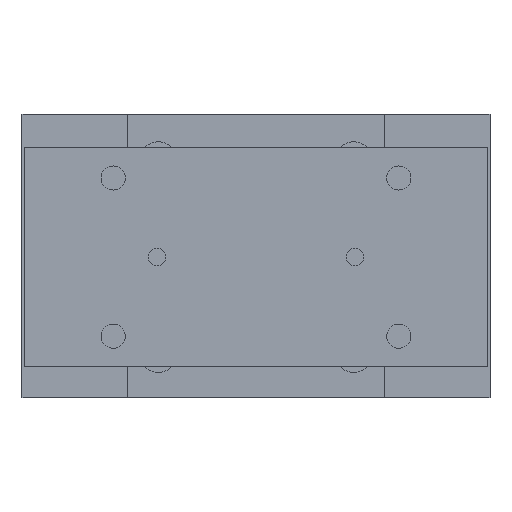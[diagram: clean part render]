
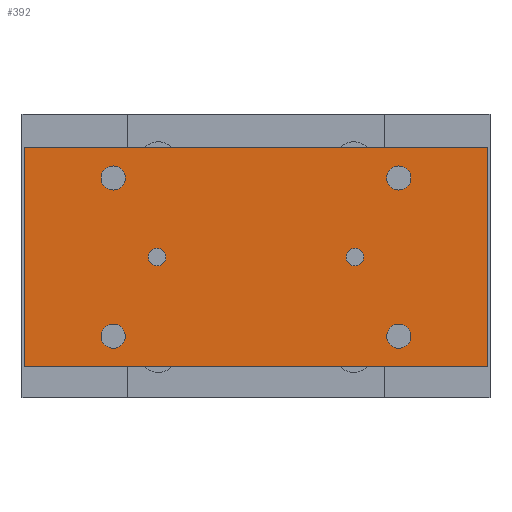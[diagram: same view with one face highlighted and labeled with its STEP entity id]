
A CAD part, left-side view. The second image highlights one B-rep face of the part: STEP entity #392.
In plain terms, the highlighted planar face has unit normal (-1, 0, 0).
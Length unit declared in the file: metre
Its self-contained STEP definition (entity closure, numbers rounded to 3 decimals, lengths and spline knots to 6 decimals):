
#392 = ADVANCED_FACE( '', ( #958, #959, #960, #961, #962, #963, #964 ), #965, .T. );
#958 = FACE_BOUND( '', #1756, .T. );
#959 = FACE_BOUND( '', #1757, .T. );
#960 = FACE_BOUND( '', #1758, .T. );
#961 = FACE_BOUND( '', #1759, .T. );
#962 = FACE_BOUND( '', #1760, .T. );
#963 = FACE_BOUND( '', #1761, .T. );
#964 = FACE_OUTER_BOUND( '', #1762, .T. );
#965 = PLANE( '', #1763 );
#1756 = EDGE_LOOP( '', ( #2800 ) );
#1757 = EDGE_LOOP( '', ( #2801 ) );
#1758 = EDGE_LOOP( '', ( #2802 ) );
#1759 = EDGE_LOOP( '', ( #2803 ) );
#1760 = EDGE_LOOP( '', ( #2804 ) );
#1761 = EDGE_LOOP( '', ( #2805 ) );
#1762 = EDGE_LOOP( '', ( #2806, #2807, #2808, #2809 ) );
#1763 = AXIS2_PLACEMENT_3D( '', #2810, #2811, #2812 );
#2800 = ORIENTED_EDGE( '', *, *, #4035, .F. );
#2801 = ORIENTED_EDGE( '', *, *, #3871, .F. );
#2802 = ORIENTED_EDGE( '', *, *, #4036, .F. );
#2803 = ORIENTED_EDGE( '', *, *, #3979, .F. );
#2804 = ORIENTED_EDGE( '', *, *, #4037, .F. );
#2805 = ORIENTED_EDGE( '', *, *, #4021, .T. );
#2806 = ORIENTED_EDGE( '', *, *, #4038, .T. );
#2807 = ORIENTED_EDGE( '', *, *, #4039, .T. );
#2808 = ORIENTED_EDGE( '', *, *, #3778, .T. );
#2809 = ORIENTED_EDGE( '', *, *, #3937, .T. );
#2810 = CARTESIAN_POINT( '', ( -0.1445, -0.1055, -0.015 ) );
#2811 = DIRECTION( '', ( -1., 0., 0. ) );
#2812 = DIRECTION( '', ( 0., -1., 0. ) );
#3778 = EDGE_CURVE( '', #4337, #4335, #4338, .T. );
#3871 = EDGE_CURVE( '', #4492, #4492, #4493, .T. );
#3937 = EDGE_CURVE( '', #4335, #4600, #4602, .T. );
#3979 = EDGE_CURVE( '', #4664, #4664, #4665, .T. );
#4021 = EDGE_CURVE( '', #4733, #4733, #4734, .T. );
#4035 = EDGE_CURVE( '', #4753, #4753, #4754, .T. );
#4036 = EDGE_CURVE( '', #4755, #4755, #4756, .T. );
#4037 = EDGE_CURVE( '', #4757, #4757, #4758, .T. );
#4038 = EDGE_CURVE( '', #4600, #4759, #4760, .T. );
#4039 = EDGE_CURVE( '', #4759, #4337, #4761, .T. );
#4335 = VERTEX_POINT( '', #5157 );
#4337 = VERTEX_POINT( '', #5160 );
#4338 = LINE( '', #5161, #5162 );
#4492 = VERTEX_POINT( '', #5422 );
#4493 = CIRCLE( '', #5423, 0.0055 );
#4600 = VERTEX_POINT( '', #5553 );
#4602 = LINE( '', #5556, #5557 );
#4664 = VERTEX_POINT( '', #5664 );
#4665 = CIRCLE( '', #5665, 0.0055 );
#4733 = VERTEX_POINT( '', #5751 );
#4734 = CIRCLE( '', #5752, 0.004 );
#4753 = VERTEX_POINT( '', #5775 );
#4754 = CIRCLE( '', #5776, 0.0055 );
#4755 = VERTEX_POINT( '', #5777 );
#4756 = CIRCLE( '', #5778, 0.0055 );
#4757 = VERTEX_POINT( '', #5779 );
#4758 = CIRCLE( '', #5780, 0.004 );
#4759 = VERTEX_POINT( '', #5781 );
#4760 = LINE( '', #5782, #5783 );
#4761 = LINE( '', #5784, #5785 );
#5157 = CARTESIAN_POINT( '', ( -0.1445, 0.1055, -0.115 ) );
#5160 = CARTESIAN_POINT( '', ( -0.1445, 0.1055, -0.015 ) );
#5161 = CARTESIAN_POINT( '', ( -0.1445, 0.1055, -0.015 ) );
#5162 = VECTOR( '', #6426, 1. );
#5422 = CARTESIAN_POINT( '', ( -0.1445, 0.0595, -0.101 ) );
#5423 = AXIS2_PLACEMENT_3D( '', #6542, #6543, #6544 );
#5553 = CARTESIAN_POINT( '', ( -0.1445, -0.1055, -0.115 ) );
#5556 = CARTESIAN_POINT( '', ( -0.1445, 0.1055, -0.115 ) );
#5557 = VECTOR( '', #6638, 1. );
#5664 = CARTESIAN_POINT( '', ( -0.1445, 0.0595, -0.029 ) );
#5665 = AXIS2_PLACEMENT_3D( '', #6690, #6691, #6692 );
#5751 = CARTESIAN_POINT( '', ( -0.1445, 0.045, -0.069 ) );
#5752 = AXIS2_PLACEMENT_3D( '', #6744, #6745, #6746 );
#5775 = CARTESIAN_POINT( '', ( -0.1445, -0.0705, -0.101 ) );
#5776 = AXIS2_PLACEMENT_3D( '', #6760, #6761, #6762 );
#5777 = CARTESIAN_POINT( '', ( -0.1445, -0.0705, -0.029 ) );
#5778 = AXIS2_PLACEMENT_3D( '', #6763, #6764, #6765 );
#5779 = CARTESIAN_POINT( '', ( -0.1445, -0.045, -0.069 ) );
#5780 = AXIS2_PLACEMENT_3D( '', #6766, #6767, #6768 );
#5781 = CARTESIAN_POINT( '', ( -0.1445, -0.1055, -0.015 ) );
#5782 = CARTESIAN_POINT( '', ( -0.1445, -0.1055, -0.115 ) );
#5783 = VECTOR( '', #6769, 1. );
#5784 = CARTESIAN_POINT( '', ( -0.1445, -0.1055, -0.015 ) );
#5785 = VECTOR( '', #6770, 1. );
#6426 = DIRECTION( '', ( 0., 0., -1. ) );
#6542 = CARTESIAN_POINT( '', ( -0.1445, 0.065, -0.101 ) );
#6543 = DIRECTION( '', ( -1., 0., 0. ) );
#6544 = DIRECTION( '', ( 0., -1., 0. ) );
#6638 = DIRECTION( '', ( 0., -1., 0. ) );
#6690 = CARTESIAN_POINT( '', ( -0.1445, 0.065, -0.029 ) );
#6691 = DIRECTION( '', ( -1., 0., 0. ) );
#6692 = DIRECTION( '', ( 0., -1., 0. ) );
#6744 = CARTESIAN_POINT( '', ( -0.1445, 0.045, -0.065 ) );
#6745 = DIRECTION( '', ( 1., 0., 0. ) );
#6746 = DIRECTION( '', ( 0., 0., -1. ) );
#6760 = CARTESIAN_POINT( '', ( -0.1445, -0.065, -0.101 ) );
#6761 = DIRECTION( '', ( -1., 0., 0. ) );
#6762 = DIRECTION( '', ( 0., -1., 0. ) );
#6763 = CARTESIAN_POINT( '', ( -0.1445, -0.065, -0.029 ) );
#6764 = DIRECTION( '', ( -1., 0., 0. ) );
#6765 = DIRECTION( '', ( 0., -1., 0. ) );
#6766 = CARTESIAN_POINT( '', ( -0.1445, -0.045, -0.065 ) );
#6767 = DIRECTION( '', ( -1., 0., 0. ) );
#6768 = DIRECTION( '', ( 0., 0., -1. ) );
#6769 = DIRECTION( '', ( 0., 0., 1. ) );
#6770 = DIRECTION( '', ( 0., 1., 0. ) );
